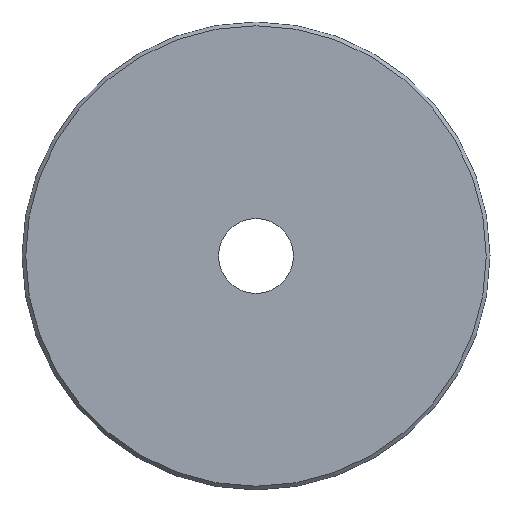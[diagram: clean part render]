
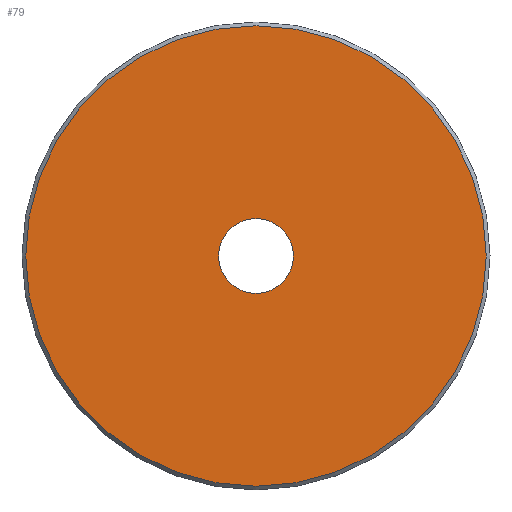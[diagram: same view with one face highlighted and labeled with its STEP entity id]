
A CAD part, front view. The second image highlights one B-rep face of the part: STEP entity #79.
In plain terms, the highlighted planar face has unit normal (0, -1, 0).
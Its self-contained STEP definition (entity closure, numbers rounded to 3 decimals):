
#16=PLANE('',#92);
#23=FACE_BOUND('',#40,.T.);
#29=FACE_OUTER_BOUND('',#39,.T.);
#39=EDGE_LOOP('',(#69));
#40=EDGE_LOOP('',(#70));
#47=CIRCLE('',#91,20.);
#48=CIRCLE('',#93,123.);
#53=VERTEX_POINT('',#134);
#54=VERTEX_POINT('',#137);
#59=EDGE_CURVE('',#53,#53,#47,.T.);
#60=EDGE_CURVE('',#54,#54,#48,.T.);
#69=ORIENTED_EDGE('',*,*,#60,.F.);
#70=ORIENTED_EDGE('',*,*,#59,.T.);
#79=ADVANCED_FACE('',(#29,#23),#16,.T.);
#91=AXIS2_PLACEMENT_3D('',#135,#113,#114);
#92=AXIS2_PLACEMENT_3D('',#136,#115,#116);
#93=AXIS2_PLACEMENT_3D('',#138,#117,#118);
#113=DIRECTION('center_axis',(0.,1.,0.));
#114=DIRECTION('ref_axis',(1.,0.,0.));
#115=DIRECTION('center_axis',(0.,-1.,0.));
#116=DIRECTION('ref_axis',(0.,0.,-1.));
#117=DIRECTION('center_axis',(0.,1.,0.));
#118=DIRECTION('ref_axis',(1.,0.,0.));
#134=CARTESIAN_POINT('',(108.547,1.208,0.));
#135=CARTESIAN_POINT('Origin',(128.547,1.208,0.));
#136=CARTESIAN_POINT('Origin',(5.547,1.208,0.));
#137=CARTESIAN_POINT('',(5.547,1.208,0.));
#138=CARTESIAN_POINT('Origin',(128.547,1.208,0.));
